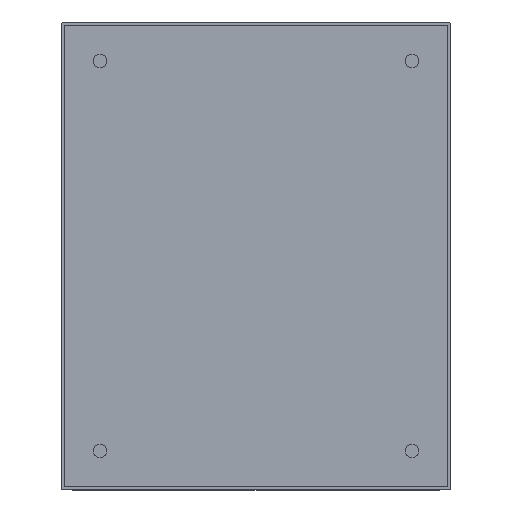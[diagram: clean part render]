
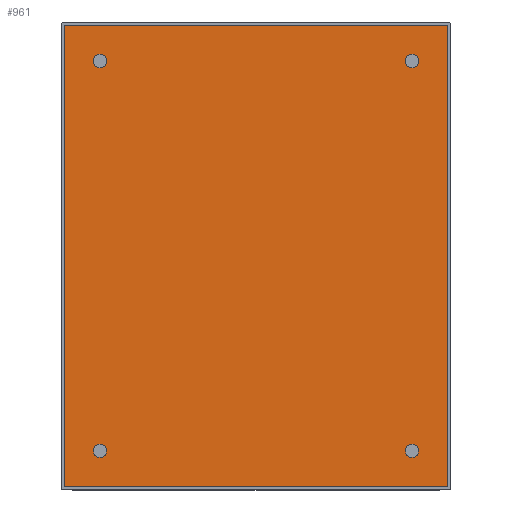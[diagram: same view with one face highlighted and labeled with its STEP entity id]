
A CAD part, top view. The second image highlights one B-rep face of the part: STEP entity #961.
In plain terms, the highlighted planar face has unit normal (0, 0, 1).
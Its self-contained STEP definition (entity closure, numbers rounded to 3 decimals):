
#18=FACE_BOUND('',#281,.T.);
#19=FACE_BOUND('',#282,.T.);
#20=FACE_BOUND('',#283,.T.);
#21=FACE_BOUND('',#284,.T.);
#86=LINE('',#4498,#138);
#90=LINE('',#4506,#142);
#93=LINE('',#4512,#145);
#96=LINE('',#4517,#148);
#138=VECTOR('',#1253,10.);
#142=VECTOR('',#1259,10.);
#145=VECTOR('',#1264,10.);
#148=VECTOR('',#1269,10.);
#165=PLANE('',#1057);
#222=FACE_OUTER_BOUND('',#280,.T.);
#280=EDGE_LOOP('',(#866,#867,#868,#869));
#281=EDGE_LOOP('',(#870));
#282=EDGE_LOOP('',(#871));
#283=EDGE_LOOP('',(#872));
#284=EDGE_LOOP('',(#873));
#326=CIRCLE('',#1042,4.263);
#328=CIRCLE('',#1045,4.263);
#330=CIRCLE('',#1048,4.263);
#332=CIRCLE('',#1051,4.263);
#446=VERTEX_POINT('',#4472);
#448=VERTEX_POINT('',#4478);
#450=VERTEX_POINT('',#4484);
#452=VERTEX_POINT('',#4490);
#454=VERTEX_POINT('',#4496);
#455=VERTEX_POINT('',#4497);
#458=VERTEX_POINT('',#4505);
#460=VERTEX_POINT('',#4511);
#578=EDGE_CURVE('',#446,#446,#326,.T.);
#581=EDGE_CURVE('',#448,#448,#328,.T.);
#584=EDGE_CURVE('',#450,#450,#330,.T.);
#587=EDGE_CURVE('',#452,#452,#332,.T.);
#590=EDGE_CURVE('',#454,#455,#86,.T.);
#594=EDGE_CURVE('',#455,#458,#90,.T.);
#597=EDGE_CURVE('',#458,#460,#93,.T.);
#600=EDGE_CURVE('',#460,#454,#96,.T.);
#866=ORIENTED_EDGE('',*,*,#600,.T.);
#867=ORIENTED_EDGE('',*,*,#590,.T.);
#868=ORIENTED_EDGE('',*,*,#594,.T.);
#869=ORIENTED_EDGE('',*,*,#597,.T.);
#870=ORIENTED_EDGE('',*,*,#578,.T.);
#871=ORIENTED_EDGE('',*,*,#581,.T.);
#872=ORIENTED_EDGE('',*,*,#584,.T.);
#873=ORIENTED_EDGE('',*,*,#587,.T.);
#961=ADVANCED_FACE('',(#222,#18,#19,#20,#21),#165,.T.);
#1042=AXIS2_PLACEMENT_3D('',#4473,#1225,#1226);
#1045=AXIS2_PLACEMENT_3D('',#4479,#1232,#1233);
#1048=AXIS2_PLACEMENT_3D('',#4485,#1239,#1240);
#1051=AXIS2_PLACEMENT_3D('',#4491,#1246,#1247);
#1057=AXIS2_PLACEMENT_3D('',#4519,#1271,#1272);
#1225=DIRECTION('center_axis',(0.,0.,-1.));
#1226=DIRECTION('ref_axis',(1.,0.,0.));
#1232=DIRECTION('center_axis',(0.,0.,-1.));
#1233=DIRECTION('ref_axis',(1.,0.,0.));
#1239=DIRECTION('center_axis',(0.,0.,-1.));
#1240=DIRECTION('ref_axis',(1.,0.,0.));
#1246=DIRECTION('center_axis',(0.,0.,-1.));
#1247=DIRECTION('ref_axis',(1.,0.,0.));
#1253=DIRECTION('',(-1.,0.,0.));
#1259=DIRECTION('',(0.,-1.,0.));
#1264=DIRECTION('',(1.,0.,0.));
#1269=DIRECTION('',(0.,1.,0.));
#1271=DIRECTION('center_axis',(0.,0.,1.));
#1272=DIRECTION('ref_axis',(-1.,0.,0.));
#4472=CARTESIAN_POINT('',(-104.263,-125.,80.));
#4473=CARTESIAN_POINT('Origin',(-100.,-125.,80.));
#4478=CARTESIAN_POINT('',(-104.263,125.,80.));
#4479=CARTESIAN_POINT('Origin',(-100.,125.,80.));
#4484=CARTESIAN_POINT('',(95.737,125.,80.));
#4485=CARTESIAN_POINT('Origin',(100.,125.,80.));
#4490=CARTESIAN_POINT('',(95.737,-125.,80.));
#4491=CARTESIAN_POINT('Origin',(100.,-125.,80.));
#4496=CARTESIAN_POINT('',(123.,148.,80.));
#4497=CARTESIAN_POINT('',(-123.,148.,80.));
#4498=CARTESIAN_POINT('',(123.,148.,80.));
#4505=CARTESIAN_POINT('',(-123.,-148.,80.));
#4506=CARTESIAN_POINT('',(-123.,148.,80.));
#4511=CARTESIAN_POINT('',(123.,-148.,80.));
#4512=CARTESIAN_POINT('',(-123.,-148.,80.));
#4517=CARTESIAN_POINT('',(123.,-148.,80.));
#4519=CARTESIAN_POINT('Origin',(0.,0.,80.));
